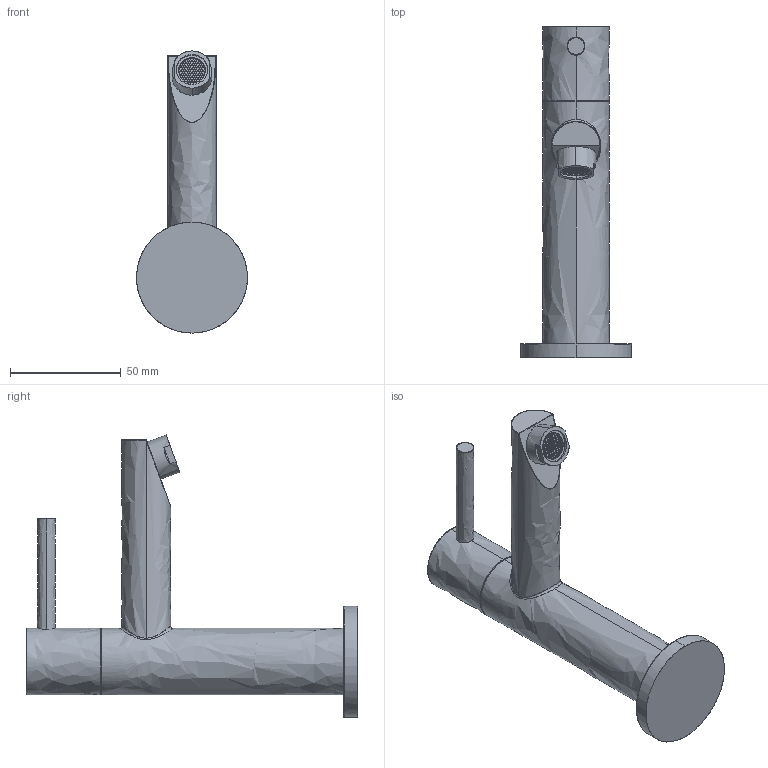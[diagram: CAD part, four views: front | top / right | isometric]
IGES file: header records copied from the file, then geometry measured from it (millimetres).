
Start section: SolidWorks IGES file using NURBS representation for surfaces
Global section: file name: \\192.168.4.1\Projectos\01-TORNEIRAS\Unique\5100261 - torneira de coluna\biblioteca 3D\5100261_igs.IGS; native system: SolidWorks 2018; preprocessor: SolidWorks 2018; author: Julio; date: 180920.143852; units: millimetre
Bounding box: 50 x 149.3 x 127.16 mm (x, y, z)
Surface area: 26718.5 mm2 (no closed solid volume)
Topology: 0 solids, 0 shells, 965 faces, 6212 edges, 6209 vertices
Faces by surface type: bspline 965
